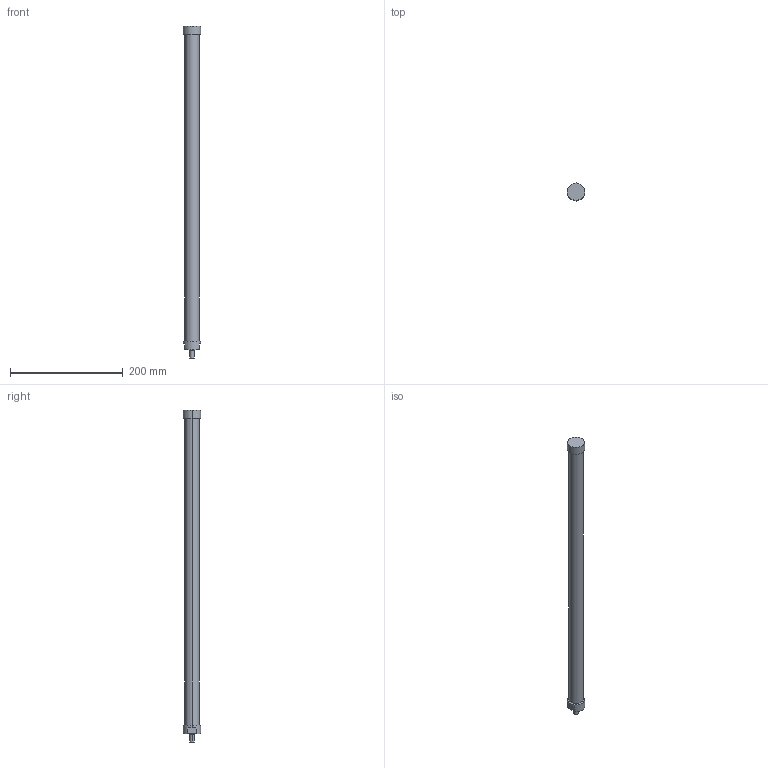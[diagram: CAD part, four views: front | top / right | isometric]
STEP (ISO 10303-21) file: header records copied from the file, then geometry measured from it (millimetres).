
FILE_DESCRIPTION(('STEP AP214'),'1');
FILE_NAME('ETT-R050M584.stp','2015-02-02T15:18:08',(' '),(' '),'Spatial InterOp 3D',' ',' ');
FILE_SCHEMA(('automotive_design'));
Length unit declared in the file: metre
Products named in the file (2): 1; 2
Bounding box: 31 x 31 x 589 mm (x, y, z)
Volume: 289859.9 mm3; surface area: 48318.8 mm2
Topology: 1 solids, 4 shells, 20 faces, 48 edges, 36 vertices
Faces by surface type: cylinder 10, plane 10
Entity records: 812 total; most frequent: DIRECTION 120, CARTESIAN_POINT 106, ORIENTED_EDGE 84, AXIS2_PLACEMENT_3D 50, EDGE_CURVE 48, VERTEX_POINT 36, CIRCLE 28, EDGE_LOOP 24
